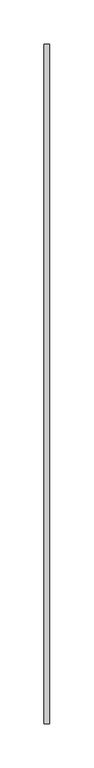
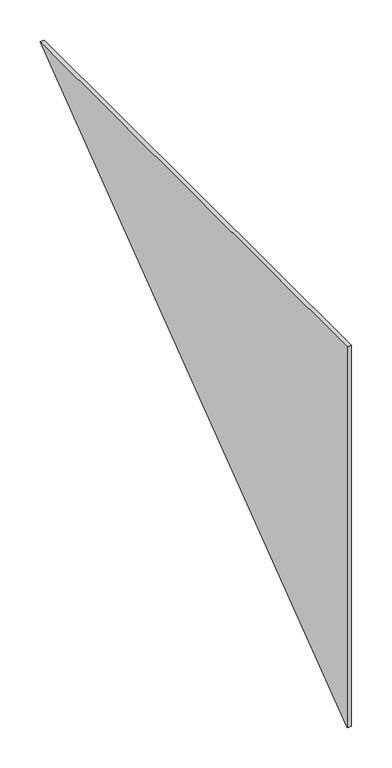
"""IFC4 building model written with IfcOpenShell, lengths in millimetres: beam geometry,  159061 :  159061."""

from ifc_helpers import new_model, si_unit, frame, origin, place, context, project, spatial, polyline, outline, extrude, source, transform, mapped, element, save


def beam_9f132adf(model_context):
    return source(origin(), model_context, "Body", "SweptSolid", [
        extrude(outline(polyline([(-7981.0, 6850.3937869), (-7981.0, 7430.14), (-7215.663425, 7430.14), (-7981.0, 6850.3937869)])), frame((5.9999999, 0.0, 0.0), z_axis=(1.0, 0.0, 0.0), x_axis=(0.0, 1.0, 0.0)), (0.0, 0.0, 1.0), 6.0),
    ])


if __name__ == "__main__":
    model = new_model("IFC4")
    model_context = context("Model", 3, world=origin())
    ifc_project = project(units=[si_unit("LENGTHUNIT", "METRE", prefix="MILLI")], contexts=[model_context])
    site = spatial("IfcSite", under=ifc_project)
    building = spatial("IfcBuilding", under=site)
    placement = place(None, origin())
    beam_shape = beam_9f132adf(model_context)
    element("IfcBeam", 1, ObjectType=" 159061 :  159061", at=placement, inside=building, context=model_context, shape_type="MappedRepresentation", body=[
        mapped(beam_shape, transform((0.0, 0.0, 0.0), x_axis=(1.0, 0.0, 0.0), y_axis=(0.0, 1.0, 0.0), z_axis=(0.0, 0.0, 1.0))),
    ])
    save(model, "model.ifc")
